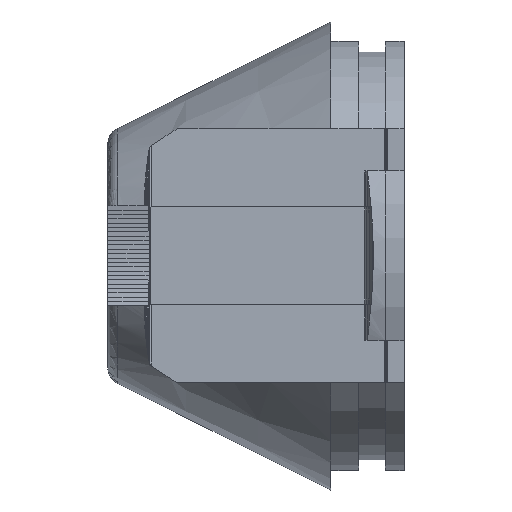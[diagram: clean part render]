
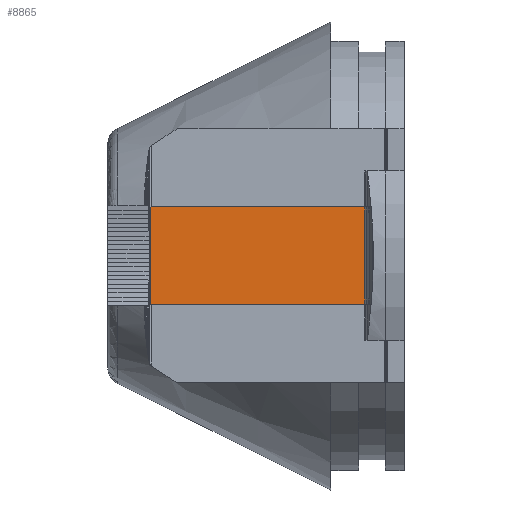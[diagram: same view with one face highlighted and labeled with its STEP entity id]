
A CAD part, top view. The second image highlights one B-rep face of the part: STEP entity #8865.
In plain terms, the highlighted planar face has unit normal (0.009, 0, 1).
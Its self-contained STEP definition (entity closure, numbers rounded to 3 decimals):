
#3178 = PLANE('',#3179);
#3179 = AXIS2_PLACEMENT_3D('',#3180,#3181,#3182);
#3180 = CARTESIAN_POINT('',(15.436,4.4,21.555));
#3181 = DIRECTION('',(0.,1.,-0.));
#3182 = DIRECTION('',(-1.,0.,0.));
#4073 = PLANE('',#4074);
#4074 = AXIS2_PLACEMENT_3D('',#4075,#4076,#4077);
#4075 = CARTESIAN_POINT('',(15.436,-4.4,21.555));
#4076 = DIRECTION('',(0.,1.,-0.));
#4077 = DIRECTION('',(-1.,0.,0.));
#6082 = VERTEX_POINT('',#6083);
#6083 = CARTESIAN_POINT('',(25.206,4.4,7.668));
#6097 = PLANE('',#6098);
#6098 = AXIS2_PLACEMENT_3D('',#6099,#6100,#6101);
#6099 = CARTESIAN_POINT('',(25.325,-4.4,7.697));
#6100 = DIRECTION('',(-0.237,0.,0.972));
#6101 = DIRECTION('',(-0.972,0.,-0.237));
#6109 = EDGE_CURVE('',#6082,#6110,#6112,.T.);
#6110 = VERTEX_POINT('',#6111);
#6111 = CARTESIAN_POINT('',(3.868,4.4,7.865));
#6112 = SURFACE_CURVE('',#6113,(#6117,#6124),.PCURVE_S1.);
#6113 = LINE('',#6114,#6115);
#6114 = CARTESIAN_POINT('',(25.206,4.4,7.668));
#6115 = VECTOR('',#6116,1.);
#6116 = DIRECTION('',(-1.,0.,0.009));
#6117 = PCURVE('',#3178,#6118);
#6118 = DEFINITIONAL_REPRESENTATION('',(#6119),#6123);
#6119 = LINE('',#6120,#6121);
#6120 = CARTESIAN_POINT('',(-9.77,-13.887));
#6121 = VECTOR('',#6122,1.);
#6122 = DIRECTION('',(1.,0.009));
#6123 = ( GEOMETRIC_REPRESENTATION_CONTEXT(2) 
PARAMETRIC_REPRESENTATION_CONTEXT() REPRESENTATION_CONTEXT('2D SPACE',''
  ) );
#6124 = PCURVE('',#6125,#6130);
#6125 = PLANE('',#6126);
#6126 = AXIS2_PLACEMENT_3D('',#6127,#6128,#6129);
#6127 = CARTESIAN_POINT('',(25.206,-4.4,7.668));
#6128 = DIRECTION('',(0.009,0.,1.));
#6129 = DIRECTION('',(-1.,0.,0.009));
#6130 = DEFINITIONAL_REPRESENTATION('',(#6131),#6135);
#6131 = LINE('',#6132,#6133);
#6132 = CARTESIAN_POINT('',(0.,-8.8));
#6133 = VECTOR('',#6134,1.);
#6134 = DIRECTION('',(1.,0.));
#6135 = ( GEOMETRIC_REPRESENTATION_CONTEXT(2) 
PARAMETRIC_REPRESENTATION_CONTEXT() REPRESENTATION_CONTEXT('2D SPACE',''
  ) );
#6153 = PLANE('',#6154);
#6154 = AXIS2_PLACEMENT_3D('',#6155,#6156,#6157);
#6155 = CARTESIAN_POINT('',(3.868,-4.4,7.865));
#6156 = DIRECTION('',(0.542,0.,0.84));
#6157 = DIRECTION('',(-0.84,0.,0.542));
#7356 = VERTEX_POINT('',#7357);
#7357 = CARTESIAN_POINT('',(25.206,-4.4,7.668));
#7378 = EDGE_CURVE('',#7356,#7379,#7381,.T.);
#7379 = VERTEX_POINT('',#7380);
#7380 = CARTESIAN_POINT('',(3.868,-4.4,7.865));
#7381 = SURFACE_CURVE('',#7382,(#7386,#7393),.PCURVE_S1.);
#7382 = LINE('',#7383,#7384);
#7383 = CARTESIAN_POINT('',(25.206,-4.4,7.668));
#7384 = VECTOR('',#7385,1.);
#7385 = DIRECTION('',(-1.,0.,0.009));
#7386 = PCURVE('',#4073,#7387);
#7387 = DEFINITIONAL_REPRESENTATION('',(#7388),#7392);
#7388 = LINE('',#7389,#7390);
#7389 = CARTESIAN_POINT('',(-9.77,-13.887));
#7390 = VECTOR('',#7391,1.);
#7391 = DIRECTION('',(1.,0.009));
#7392 = ( GEOMETRIC_REPRESENTATION_CONTEXT(2) 
PARAMETRIC_REPRESENTATION_CONTEXT() REPRESENTATION_CONTEXT('2D SPACE',''
  ) );
#7393 = PCURVE('',#6125,#7394);
#7394 = DEFINITIONAL_REPRESENTATION('',(#7395),#7399);
#7395 = LINE('',#7396,#7397);
#7396 = CARTESIAN_POINT('',(0.,0.));
#7397 = VECTOR('',#7398,1.);
#7398 = DIRECTION('',(1.,0.));
#7399 = ( GEOMETRIC_REPRESENTATION_CONTEXT(2) 
PARAMETRIC_REPRESENTATION_CONTEXT() REPRESENTATION_CONTEXT('2D SPACE',''
  ) );
#8842 = EDGE_CURVE('',#7379,#6110,#8843,.T.);
#8843 = SURFACE_CURVE('',#8844,(#8848,#8855),.PCURVE_S1.);
#8844 = LINE('',#8845,#8846);
#8845 = CARTESIAN_POINT('',(3.868,-4.4,7.865));
#8846 = VECTOR('',#8847,1.);
#8847 = DIRECTION('',(0.,1.,-0.));
#8848 = PCURVE('',#6153,#8849);
#8849 = DEFINITIONAL_REPRESENTATION('',(#8850),#8854);
#8850 = LINE('',#8851,#8852);
#8851 = CARTESIAN_POINT('',(0.,0.));
#8852 = VECTOR('',#8853,1.);
#8853 = DIRECTION('',(0.,-1.));
#8854 = ( GEOMETRIC_REPRESENTATION_CONTEXT(2) 
PARAMETRIC_REPRESENTATION_CONTEXT() REPRESENTATION_CONTEXT('2D SPACE',''
  ) );
#8855 = PCURVE('',#6125,#8856);
#8856 = DEFINITIONAL_REPRESENTATION('',(#8857),#8861);
#8857 = LINE('',#8858,#8859);
#8858 = CARTESIAN_POINT('',(21.338,0.));
#8859 = VECTOR('',#8860,1.);
#8860 = DIRECTION('',(0.,-1.));
#8861 = ( GEOMETRIC_REPRESENTATION_CONTEXT(2) 
PARAMETRIC_REPRESENTATION_CONTEXT() REPRESENTATION_CONTEXT('2D SPACE',''
  ) );
#8865 = ADVANCED_FACE('',(#8866),#6125,.T.);
#8866 = FACE_BOUND('',#8867,.T.);
#8867 = EDGE_LOOP('',(#8868,#8889,#8890,#8891));
#8868 = ORIENTED_EDGE('',*,*,#8869,.T.);
#8869 = EDGE_CURVE('',#7356,#6082,#8870,.T.);
#8870 = SURFACE_CURVE('',#8871,(#8875,#8882),.PCURVE_S1.);
#8871 = LINE('',#8872,#8873);
#8872 = CARTESIAN_POINT('',(25.206,-4.4,7.668));
#8873 = VECTOR('',#8874,1.);
#8874 = DIRECTION('',(0.,1.,-0.));
#8875 = PCURVE('',#6125,#8876);
#8876 = DEFINITIONAL_REPRESENTATION('',(#8877),#8881);
#8877 = LINE('',#8878,#8879);
#8878 = CARTESIAN_POINT('',(0.,0.));
#8879 = VECTOR('',#8880,1.);
#8880 = DIRECTION('',(0.,-1.));
#8881 = ( GEOMETRIC_REPRESENTATION_CONTEXT(2) 
PARAMETRIC_REPRESENTATION_CONTEXT() REPRESENTATION_CONTEXT('2D SPACE',''
  ) );
#8882 = PCURVE('',#6097,#8883);
#8883 = DEFINITIONAL_REPRESENTATION('',(#8884),#8888);
#8884 = LINE('',#8885,#8886);
#8885 = CARTESIAN_POINT('',(0.123,0.));
#8886 = VECTOR('',#8887,1.);
#8887 = DIRECTION('',(0.,-1.));
#8888 = ( GEOMETRIC_REPRESENTATION_CONTEXT(2) 
PARAMETRIC_REPRESENTATION_CONTEXT() REPRESENTATION_CONTEXT('2D SPACE',''
  ) );
#8889 = ORIENTED_EDGE('',*,*,#6109,.T.);
#8890 = ORIENTED_EDGE('',*,*,#8842,.F.);
#8891 = ORIENTED_EDGE('',*,*,#7378,.F.);
